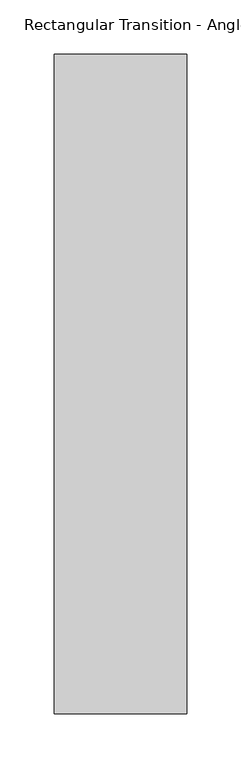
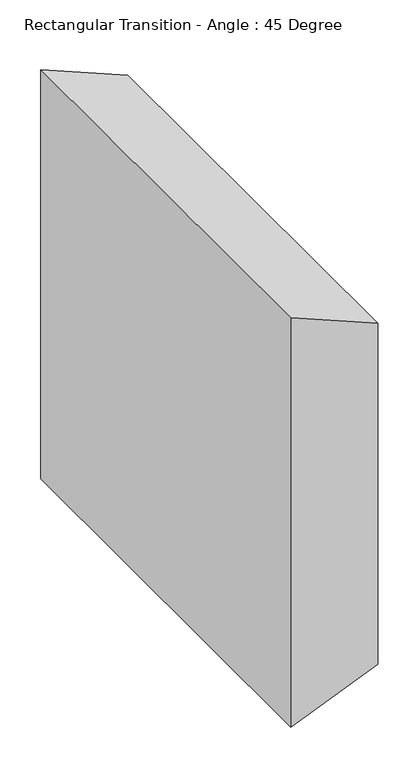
"""IFC4 building model written with IfcOpenShell, lengths in millimetres: duct fitting geometry, Rectangular Transition - Angle : 45 Degree."""

from ifc_helpers import new_model, si_unit, frame, origin, place, context, project, spatial, polyline, outline, extrude, source, transform, mapped, element, save


def rectangular_transition_angle_45_degree_105ad264(model_context):
    return source(origin(), model_context, "Body", "SweptSolid", [
        extrude(outline(polyline([(304.8, 0.0), (-304.8, 0.0), (-254.0, 122.642049), (254.0, 122.642049), (304.8, 0.0)])), frame((0.0, -304.8, 0.0), z_axis=(0.0, 1.0, 0.0), x_axis=(0.0, 0.0, 1.0)), (0.0, 0.0, 1.0), 609.6),
    ])


if __name__ == "__main__":
    model = new_model("IFC4")
    model_context = context("Model", 3, world=origin())
    ifc_project = project(units=[si_unit("LENGTHUNIT", "METRE", prefix="MILLI")], contexts=[model_context])
    site = spatial("IfcSite", under=ifc_project)
    building = spatial("IfcBuilding", under=site)
    placement = place(None, origin())
    rectangular_transition_angle_45_degree_shape = rectangular_transition_angle_45_degree_105ad264(model_context)
    element("IfcDuctFitting", 1, ObjectType="Rectangular Transition - Angle : 45 Degree", at=placement, inside=building, context=model_context, shape_type="MappedRepresentation", body=[
        mapped(rectangular_transition_angle_45_degree_shape, transform((0.0, 0.0, 0.0), x_axis=(1.0, 0.0, 0.0), y_axis=(0.0, 1.0, 0.0), z_axis=(0.0, 0.0, 1.0))),
    ])
    save(model, "model.ifc")
